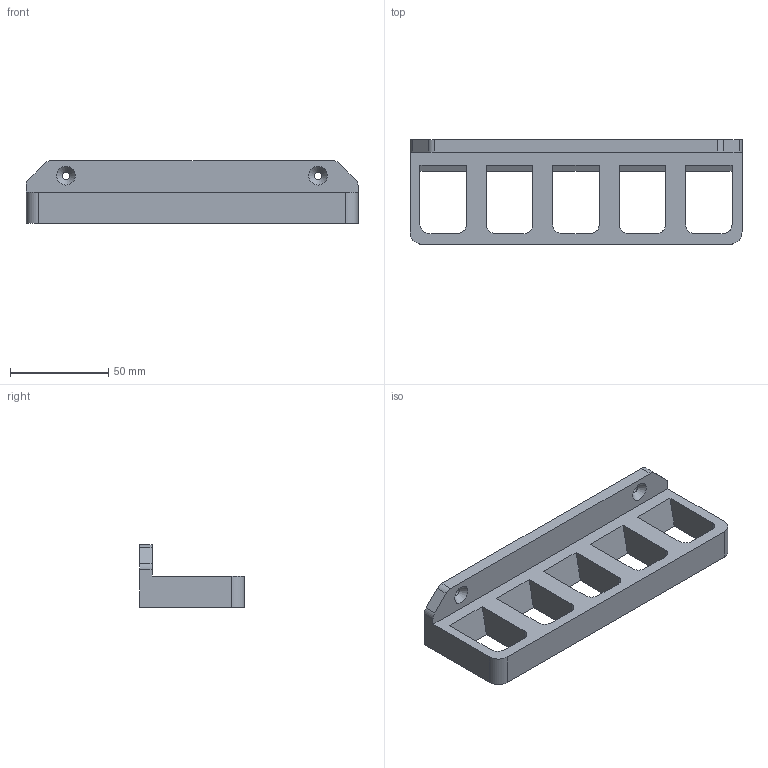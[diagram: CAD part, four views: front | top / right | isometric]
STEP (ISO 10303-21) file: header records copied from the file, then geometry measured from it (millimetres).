
FILE_DESCRIPTION(/* description */ (''),/* implementation_level */ '2;1');
FILE_NAME(/* name */ 'E:\CAD\Projects\3D Printing\Firearms\Glock Mag Rack\mag_rack_g_v1.stp',/* time_stamp */ '2018-01-18T18:15:07-05:00',/* author */ ('OfficePC'),/* organization */ (''),/* preprocessor_version */ 'ST-DEVELOPER v15.2',/* originating_system */ 'Autodesk Inventor 2014',/* authorisation */ '');
FILE_SCHEMA (('AUTOMOTIVE_DESIGN { 1 0 10303 214 3 1 1 }'));
Length unit declared in the file: inch
Products named in the file (1): mag_rack_g_v1
Bounding box: 168.91 x 53.34 x 31.75 mm (x, y, z)
Volume: 94204.7 mm3; surface area: 31186.4 mm2
Topology: 1 solids, 1 shells, 50 faces, 144 edges, 96 vertices
Faces by surface type: plane 30, cylinder 18, cone 2
Full cylindrical faces by diameter (mm): 3.81 x2
Entity records: 1659 total; most frequent: CARTESIAN_POINT 283, DIRECTION 278, ORIENTED_EDGE 276, EDGE_CURVE 138, LINE 100, VECTOR 100, VERTEX_POINT 94, AXIS2_PLACEMENT_3D 89
